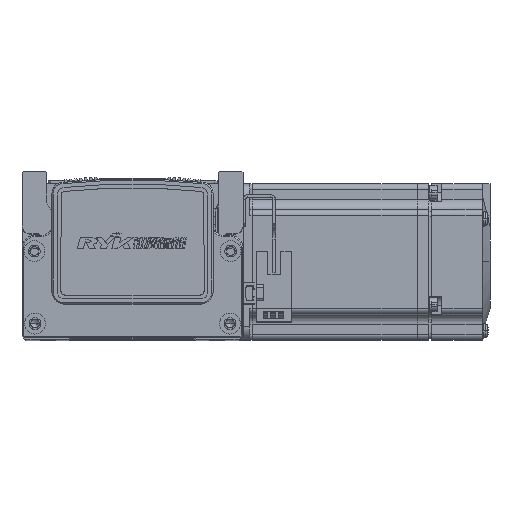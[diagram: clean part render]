
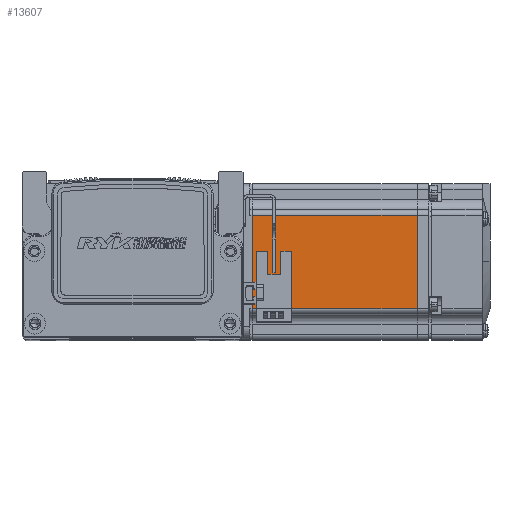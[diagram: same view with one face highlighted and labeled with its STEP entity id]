
A CAD part, top view. The second image highlights one B-rep face of the part: STEP entity #13607.
In plain terms, the highlighted planar face has unit normal (0, 0, 1) as drawn and (0, 0, -1) by its records, which use the part's own axes.
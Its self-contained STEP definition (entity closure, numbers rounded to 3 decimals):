
#2514 = VERTEX_POINT ( 'NONE', #63149 ) ;
#2556 = VERTEX_POINT ( 'NONE', #63168 ) ;
#2565 = VERTEX_POINT ( 'NONE', #63188 ) ;
#2603 = VERTEX_POINT ( 'NONE', #63267 ) ;
#3293 = FACE_OUTER_BOUND ( 'NONE', #58831, .T. ) ;
#13607 = ADVANCED_FACE ( 'NONE', ( #3293 ), #43769, .T. ) ;
#24071 = VECTOR ( 'NONE', #25989, 1000. ) ;
#24073 = VECTOR ( 'NONE', #25872, 1000. ) ;
#24074 = LINE ( 'NONE', #25865, #24073 ) ;
#24109 = LINE ( 'NONE', #25979, #24071 ) ;
#24144 = LINE ( 'NONE', #26065, #24149 ) ;
#24149 = VECTOR ( 'NONE', #26078, 1000. ) ;
#24160 = LINE ( 'NONE', #26002, #24172 ) ;
#24172 = VECTOR ( 'NONE', #26012, 1000. ) ;
#25865 = CARTESIAN_POINT ( 'NONE',  ( -7.75, 25., -30. ) ) ;
#25872 = DIRECTION ( 'NONE',  ( 0., -1., 0. ) ) ;
#25979 = CARTESIAN_POINT ( 'NONE',  ( -6.5, 18., -30. ) ) ;
#25989 = DIRECTION ( 'NONE',  ( 1., 0., 0. ) ) ;
#26002 = CARTESIAN_POINT ( 'NONE',  ( -6.5, -18., -30. ) ) ;
#26012 = DIRECTION ( 'NONE',  ( -1., 0., 0. ) ) ;
#26065 = CARTESIAN_POINT ( 'NONE',  ( -70.95, 25., -30. ) ) ;
#26078 = DIRECTION ( 'NONE',  ( 0., 1., 0. ) ) ;
#43754 = CARTESIAN_POINT ( 'NONE',  ( -6.5, 25., -30. ) ) ;
#43765 = DIRECTION ( 'NONE',  ( 0., 0., -1. ) ) ;
#43766 = DIRECTION ( 'NONE',  ( -1., 0., 0. ) ) ;
#43769 = PLANE ( 'NONE',  #53911 ) ;
#53911 = AXIS2_PLACEMENT_3D ( 'NONE', #43754, #43765, #43766 ) ;
#56611 = EDGE_CURVE ( 'NONE', #2556, #2603, #24074, .T. ) ;
#56651 = EDGE_CURVE ( 'NONE', #2514, #2556, #24109, .T. ) ;
#56678 = EDGE_CURVE ( 'NONE', #2603, #2565, #24160, .T. ) ;
#56693 = EDGE_CURVE ( 'NONE', #2565, #2514, #24144, .T. ) ;
#58831 = EDGE_LOOP ( 'NONE', ( #66188, #66169, #66214, #66179 ) ) ;
#63149 = CARTESIAN_POINT ( 'NONE',  ( -70.95, 18., -30. ) ) ;
#63168 = CARTESIAN_POINT ( 'NONE',  ( -7.75, 18., -30. ) ) ;
#63188 = CARTESIAN_POINT ( 'NONE',  ( -70.95, -18., -30. ) ) ;
#63267 = CARTESIAN_POINT ( 'NONE',  ( -7.75, -18., -30. ) ) ;
#66169 = ORIENTED_EDGE ( 'NONE', *, *, #56678, .T. ) ;
#66179 = ORIENTED_EDGE ( 'NONE', *, *, #56651, .T. ) ;
#66188 = ORIENTED_EDGE ( 'NONE', *, *, #56611, .T. ) ;
#66214 = ORIENTED_EDGE ( 'NONE', *, *, #56693, .T. ) ;
